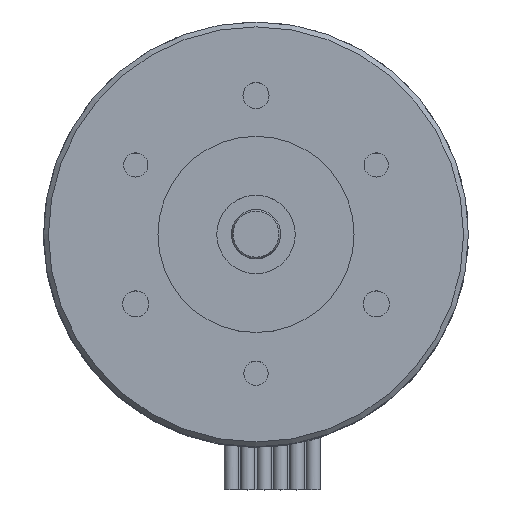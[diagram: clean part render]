
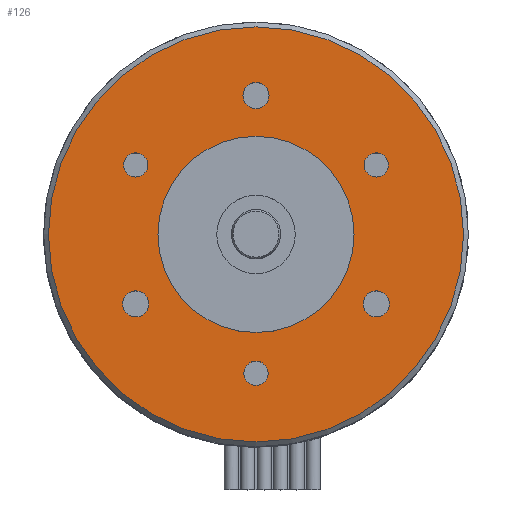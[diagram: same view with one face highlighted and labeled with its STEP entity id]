
A CAD part, top view. The second image highlights one B-rep face of the part: STEP entity #126.
In plain terms, the highlighted planar face has unit normal (0, 0, 1).
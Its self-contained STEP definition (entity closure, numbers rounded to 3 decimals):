
#40=FACE_BOUND('',#250,.T.);
#41=FACE_BOUND('',#251,.T.);
#42=FACE_BOUND('',#252,.T.);
#43=FACE_BOUND('',#253,.T.);
#44=FACE_BOUND('',#254,.T.);
#45=FACE_BOUND('',#255,.T.);
#46=FACE_BOUND('',#256,.T.);
#47=FACE_BOUND('',#257,.T.);
#126=ADVANCED_FACE('',(#40,#41,#42,#43,#44,#45,#46,#47),#168,.T.);
#168=PLANE('',#946);
#250=EDGE_LOOP('',(#462));
#251=EDGE_LOOP('',(#463));
#252=EDGE_LOOP('',(#464));
#253=EDGE_LOOP('',(#465));
#254=EDGE_LOOP('',(#466));
#255=EDGE_LOOP('',(#467));
#256=EDGE_LOOP('',(#468));
#257=EDGE_LOOP('',(#469));
#342=CIRCLE('',#938,12.7);
#343=CIRCLE('',#939,0.8);
#344=CIRCLE('',#940,0.8);
#345=CIRCLE('',#941,0.8);
#346=CIRCLE('',#942,0.74);
#347=CIRCLE('',#943,0.74);
#348=CIRCLE('',#944,0.74);
#349=CIRCLE('',#945,6.);
#462=ORIENTED_EDGE('',*,*,#744,.T.);
#463=ORIENTED_EDGE('',*,*,#745,.T.);
#464=ORIENTED_EDGE('',*,*,#746,.T.);
#465=ORIENTED_EDGE('',*,*,#747,.T.);
#466=ORIENTED_EDGE('',*,*,#748,.T.);
#467=ORIENTED_EDGE('',*,*,#749,.T.);
#468=ORIENTED_EDGE('',*,*,#750,.T.);
#469=ORIENTED_EDGE('',*,*,#751,.F.);
#646=VERTEX_POINT('',#1513);
#647=VERTEX_POINT('',#1515);
#648=VERTEX_POINT('',#1517);
#649=VERTEX_POINT('',#1519);
#650=VERTEX_POINT('',#1521);
#651=VERTEX_POINT('',#1523);
#652=VERTEX_POINT('',#1525);
#653=VERTEX_POINT('',#1527);
#744=EDGE_CURVE('',#646,#646,#342,.T.);
#745=EDGE_CURVE('',#647,#647,#343,.T.);
#746=EDGE_CURVE('',#648,#648,#344,.T.);
#747=EDGE_CURVE('',#649,#649,#345,.T.);
#748=EDGE_CURVE('',#650,#650,#346,.T.);
#749=EDGE_CURVE('',#651,#651,#347,.T.);
#750=EDGE_CURVE('',#652,#652,#348,.T.);
#751=EDGE_CURVE('',#653,#653,#349,.T.);
#938=AXIS2_PLACEMENT_3D('',#1512,#1139,#1140);
#939=AXIS2_PLACEMENT_3D('',#1514,#1141,#1142);
#940=AXIS2_PLACEMENT_3D('',#1516,#1143,#1144);
#941=AXIS2_PLACEMENT_3D('',#1518,#1145,#1146);
#942=AXIS2_PLACEMENT_3D('',#1520,#1147,#1148);
#943=AXIS2_PLACEMENT_3D('',#1522,#1149,#1150);
#944=AXIS2_PLACEMENT_3D('',#1524,#1151,#1152);
#945=AXIS2_PLACEMENT_3D('',#1526,#1153,#1154);
#946=AXIS2_PLACEMENT_3D('',#1528,#1155,#1156);
#1139=DIRECTION('',(0.,0.,1.));
#1140=DIRECTION('',(1.,0.,0.));
#1141=DIRECTION('',(0.,0.,-1.));
#1142=DIRECTION('',(-1.,0.,0.));
#1143=DIRECTION('',(0.,0.,-1.));
#1144=DIRECTION('',(-1.,0.,0.));
#1145=DIRECTION('',(0.,0.,-1.));
#1146=DIRECTION('',(-1.,0.,0.));
#1147=DIRECTION('',(0.,0.,-1.));
#1148=DIRECTION('',(-1.,0.,0.));
#1149=DIRECTION('',(0.,0.,-1.));
#1150=DIRECTION('',(-1.,0.,0.));
#1151=DIRECTION('',(0.,0.,-1.));
#1152=DIRECTION('',(-1.,0.,0.));
#1153=DIRECTION('',(0.,0.,1.));
#1154=DIRECTION('',(1.,0.,0.));
#1155=DIRECTION('',(0.,0.,1.));
#1156=DIRECTION('',(1.,0.,0.));
#1512=CARTESIAN_POINT('',(0.,0.,0.));
#1513=CARTESIAN_POINT('',(12.7,0.,0.));
#1514=CARTESIAN_POINT('',(7.361,-4.25,0.));
#1515=CARTESIAN_POINT('',(6.561,-4.25,0.));
#1516=CARTESIAN_POINT('',(-7.361,-4.25,0.));
#1517=CARTESIAN_POINT('',(-8.161,-4.25,0.));
#1518=CARTESIAN_POINT('',(0.,8.5,0.));
#1519=CARTESIAN_POINT('',(-0.8,8.5,0.));
#1520=CARTESIAN_POINT('',(7.361,4.25,0.));
#1521=CARTESIAN_POINT('',(6.621,4.25,0.));
#1522=CARTESIAN_POINT('',(0.,-8.5,0.));
#1523=CARTESIAN_POINT('',(-0.74,-8.5,0.));
#1524=CARTESIAN_POINT('',(-7.361,4.25,0.));
#1525=CARTESIAN_POINT('',(-8.101,4.25,0.));
#1526=CARTESIAN_POINT('',(0.,0.,0.));
#1527=CARTESIAN_POINT('',(6.,0.,0.));
#1528=CARTESIAN_POINT('',(0.,0.,0.));
